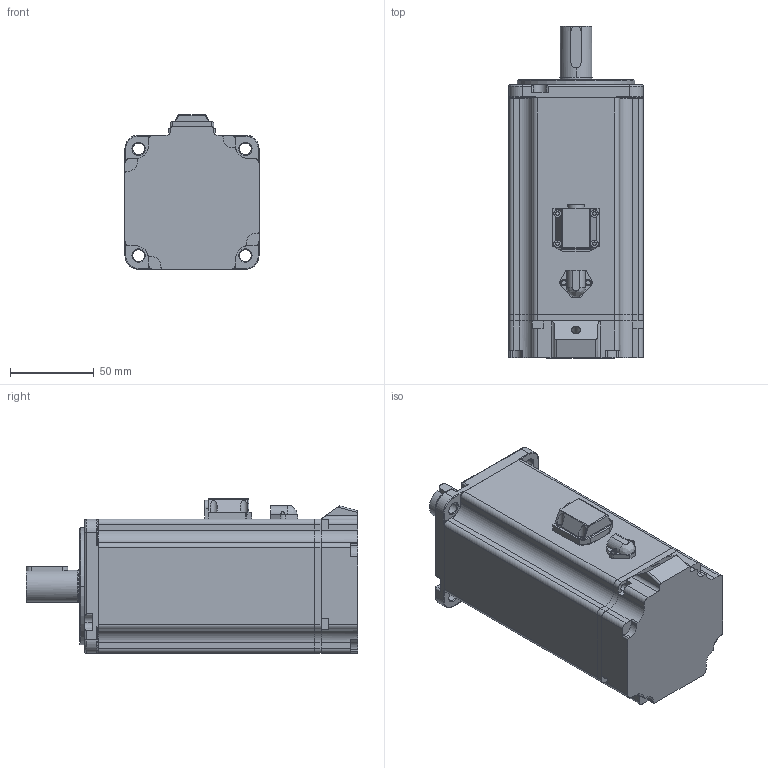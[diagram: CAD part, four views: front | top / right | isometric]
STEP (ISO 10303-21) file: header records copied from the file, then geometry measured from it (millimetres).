
FILE_DESCRIPTION (( 'STEP AP214' ), '1' );
FILE_NAME ('RSNA-M08J3230A-Z.STEP', '2022-07-21T07:04:46', ( 'wimxt.com' ), ( 'wimxt.com' ), 'SwSTEP 2.0', 'SolidWorks 2014', '' );
FILE_SCHEMA (( 'AUTOMOTIVE_DESIGN' ));
Length unit declared in the file: millimetre
Products named in the file (9): RSNA-M08J3230A-Z; 侜督价陬揤盄裔; 沺瑩6x25; 侜督揤盄褲; S80DG-B-004; 80ヶ傷裔; 80綴欶; 80SF1000; S80-H129
Assembly tree (8 placements, depth 2):
  RSNA-M08J3230A-Z
    S80-H129
    80SF1000
    80綴欶
    80ヶ傷裔
    S80DG-B-004
    侜督揤盄褲
    沺瑩6x25
    侜督价陬揤盄裔
Bounding box: 80 x 198 x 92.2 mm (x, y, z)
Volume: 289659 mm3; surface area: 148092.2 mm2
Topology: 8 solids, 8 shells, 889 faces, 2231 edges, 1356 vertices
Faces by surface type: cylinder 334, plane 266, bspline 219, cone 64, torus 4, sphere 2
Entity records: 33729 total; most frequent: CARTESIAN_POINT 13071, ORIENTED_EDGE 4394, DIRECTION 4088, EDGE_CURVE 2197, AXIS2_PLACEMENT_3D 1562, VERTEX_POINT 1354, EDGE_LOOP 993, LINE 964
